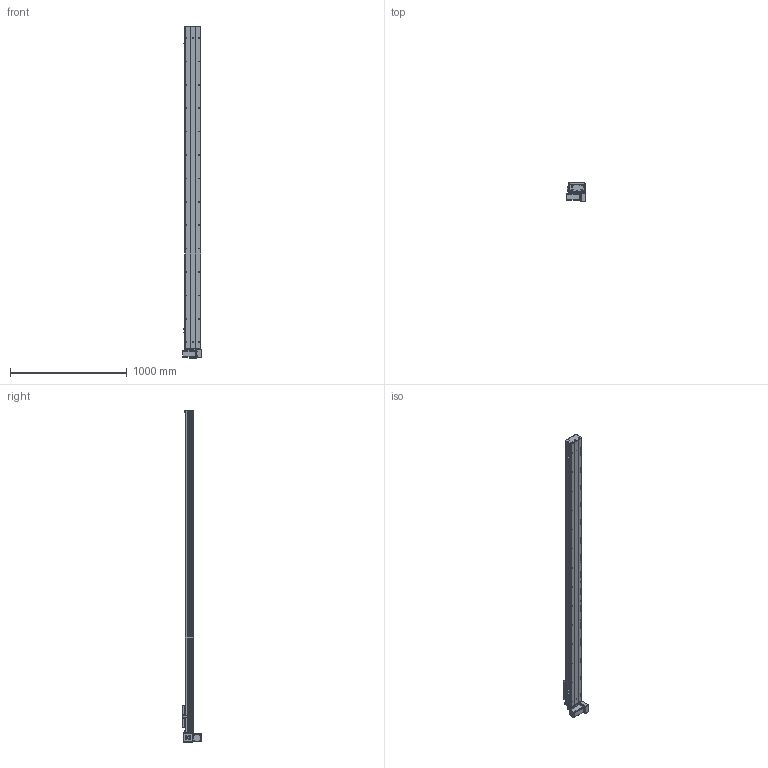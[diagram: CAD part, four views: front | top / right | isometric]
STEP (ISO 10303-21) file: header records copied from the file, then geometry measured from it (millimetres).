
FILE_DESCRIPTION (( 'STEP AP203' ), '1' );
FILE_NAME ('Y135CB-D90-S2450-BM-P400W.STEP', '2020-02-19T01:52:29', ( '微软用户' ), ( '微软中国' ), 'SwSTEP 2.0', 'SolidWorks 2017', '' );
FILE_SCHEMA (( 'CONFIG_CONTROL_DESIGN' ));
Length unit declared in the file: millimetre
Products named in the file (18): Y135C-陔俋离換覜結え-; 0B-埴倛裔啣; 5C--俋欶; 0B-源倛裔啣; C-雄赽釱--; 0B-萇儂楊擘啣; Y10B--々湍喘謫眊--666; san松下电机400不带刹车----; 00B-俋欶BM--; 5CB --掛极耜裔啣-; Y10B-耜蚾蟀諉啣----; C-詩湍揤踡え-陔; Y135CB-耜裔; Y135CB-D90-S2450-BM-P400W; 135CB--詩湍-CE; 135CB---遴掛极.-; Y100-135俋离換覜ん--; 35CB---喘謫眊楊擘啣
Assembly tree (21 placements, depth 2):
  Y135CB-D90-S2450-BM-P400W
    Y135CB-耜裔
    135CB---遴掛极.-
    35CB---喘謫眊楊擘啣
    0B-埴倛裔啣
    0B-源倛裔啣
    0B-萇儂楊擘啣
    san松下电机400不带刹车----
    5CB --掛极耜裔啣-  x2
    C-詩湍揤踡え-陔  x2
    135CB--詩湍-CE
    Y100-135俋离換覜ん--  x3
    Y135C-陔俋离換覜結え-
    5C--俋欶
    C-雄赽釱--
    Y10B--々湍喘謫眊--666
    00B-俋欶BM--
    Y10B-耜蚾蟀諉啣----
Bounding box: 157 x 163.3 x 2838 mm (x, y, z)
Volume: 8152030.9 mm3; surface area: 3227851.3 mm2
Topology: 21 solids, 21 shells, 973 faces, 2653 edges, 1758 vertices
Faces by surface type: cylinder 501, plane 456, cone 16
Entity records: 30763 total; most frequent: CARTESIAN_POINT 5120, DIRECTION 5113, ORIENTED_EDGE 4782, EDGE_CURVE 2391, AXIS2_PLACEMENT_3D 1875, VERTEX_POINT 1586, LINE 1363, VECTOR 1363
